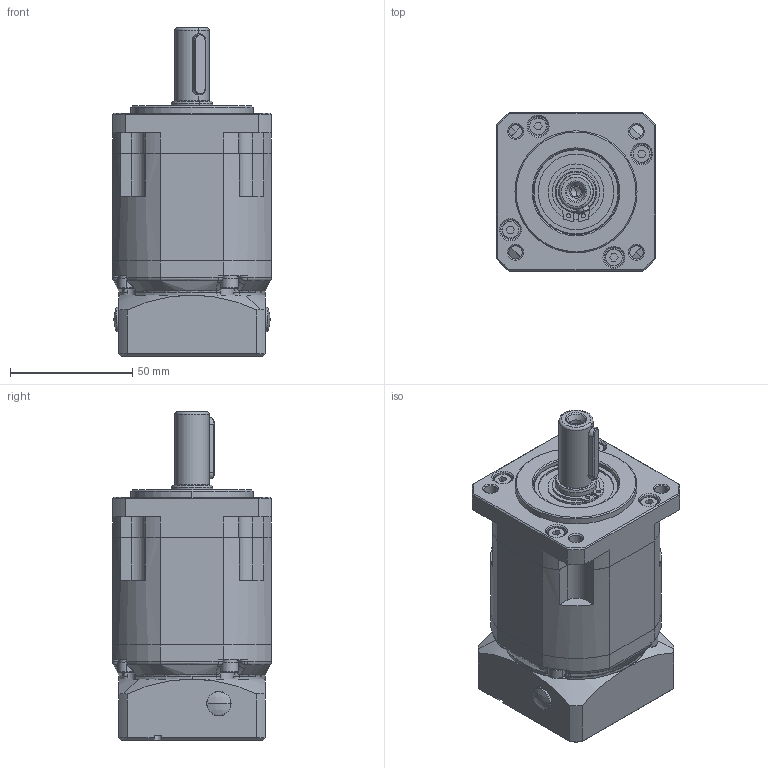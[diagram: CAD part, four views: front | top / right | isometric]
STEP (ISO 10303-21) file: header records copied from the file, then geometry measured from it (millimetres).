
FILE_DESCRIPTION (( 'STEP AP203' ), '1' );
FILE_NAME ('PS70L2-i-P2-S2-14-30-50-70-M4 .step', '2020-03-30T09:38:47', ( '个人用户' ), ( '微软中国' ), 'SwSTEP 2.0', 'SolidWorks 2018', '' );
FILE_SCHEMA (( 'CONFIG_CONTROL_DESIGN' ));
Length unit declared in the file: millimetre
Products named in the file (1): PS70L2-i-P2-S2-14-30-50-70-M4 
Bounding box: 65 x 65 x 134.5 mm (x, y, z)
Volume: 256589.7 mm3; surface area: 100180.4 mm2
Topology: 39 solids, 39 shells, 1450 faces, 3575 edges, 2253 vertices
Faces by surface type: cylinder 471, plane 407, sphere 190, cone 174, torus 170, bspline 38
Entity records: 49805 total; most frequent: CARTESIAN_POINT 15180, DIRECTION 7556, ORIENTED_EDGE 7050, EDGE_CURVE 3525, AXIS2_PLACEMENT_3D 3186, VERTEX_POINT 2249, CIRCLE 1773, EDGE_LOOP 1664
